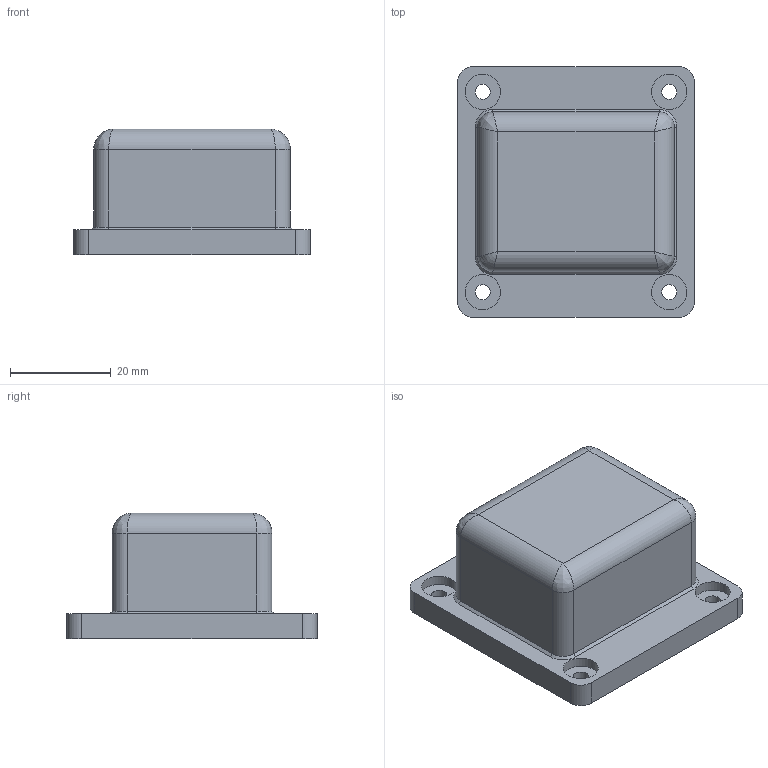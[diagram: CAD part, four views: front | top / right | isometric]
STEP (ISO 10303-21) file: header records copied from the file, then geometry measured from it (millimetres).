
FILE_DESCRIPTION(/* description */ (''),/* implementation_level */ '2;1');
FILE_NAME(/* name */ 'Foot Plate_Part 03.stp',/* time_stamp */ '2025-08-27T01:00:58+09:00',/* author */ (''),/* organization */ (''),/* preprocessor_version */ 'ST-DEVELOPER v11',/* originating_system */ 'SIEMENS PLM Software NX 7.5',/* authorisation */ '');
FILE_SCHEMA (('CONFIG_CONTROL_DESIGN'));
Length unit declared in the file: millimetre
Products named in the file (1): gyun8D5Clm0g
Bounding box: 47.08 x 49.8 x 25 mm (x, y, z)
Volume: 35561.1 mm3; surface area: 8299.5 mm2
Topology: 1 solids, 1 shells, 47 faces, 108 edges, 64 vertices
Faces by surface type: cylinder 20, plane 19, bspline 4, cone 4
Full cylindrical faces by diameter (mm): 3 x4, 7 x4
Entity records: 1424 total; most frequent: CARTESIAN_POINT 317, DIRECTION 226, ORIENTED_EDGE 184, EDGE_CURVE 92, AXIS2_PLACEMENT_3D 89, EDGE_LOOP 68, VERTEX_POINT 60, LINE 48
